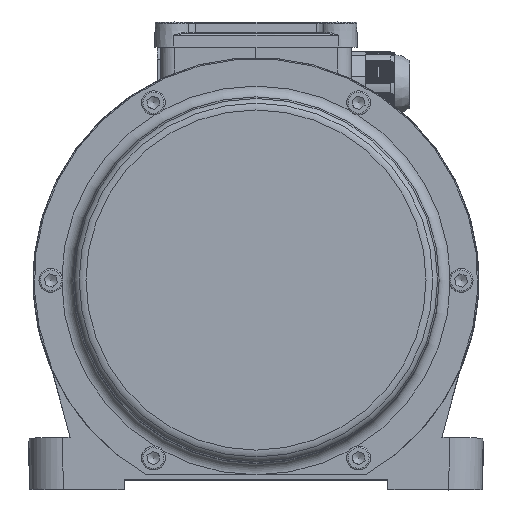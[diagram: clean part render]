
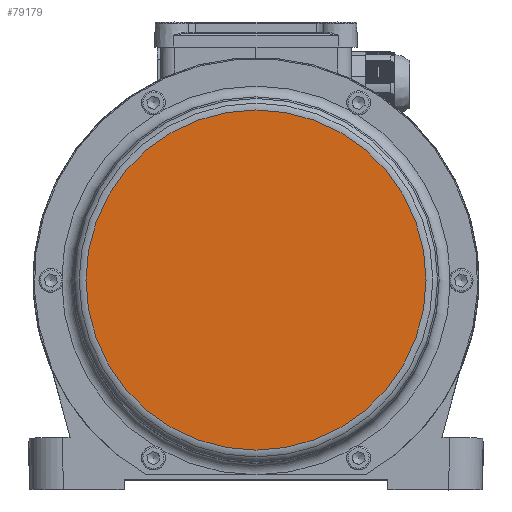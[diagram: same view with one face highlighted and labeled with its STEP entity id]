
A CAD part, top view. The second image highlights one B-rep face of the part: STEP entity #79179.
In plain terms, the highlighted planar face has unit normal (0, 0, 1).
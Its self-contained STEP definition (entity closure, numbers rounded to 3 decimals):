
#4936=PLANE('',#83885);
#7976=FACE_OUTER_BOUND('',#12252,.T.);
#12252=EDGE_LOOP('',(#55154));
#31932=CIRCLE('',#83884,71.3);
#33675=VERTEX_POINT('',#115290);
#41883=EDGE_CURVE('',#33675,#33675,#31932,.T.);
#55154=ORIENTED_EDGE('',*,*,#41883,.F.);
#79179=ADVANCED_FACE('',(#7976),#4936,.T.);
#83884=AXIS2_PLACEMENT_3D('',#115292,#90228,#90229);
#83885=AXIS2_PLACEMENT_3D('',#115293,#90230,#90231);
#90228=DIRECTION('center_axis',(0.,0.,
-1.));
#90229=DIRECTION('ref_axis',(0.,1.,0.));
#90230=DIRECTION('center_axis',(0.,0.,
1.));
#90231=DIRECTION('ref_axis',(1.,0.,0.));
#115290=CARTESIAN_POINT('',(69.618,-4.354,172.3));
#115292=CARTESIAN_POINT('Origin',(-1.682,-4.354,172.3));
#115293=CARTESIAN_POINT('Origin',(-1.682,31.296,172.3));
